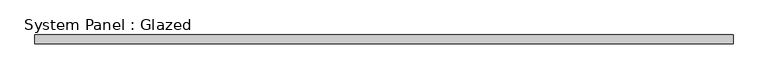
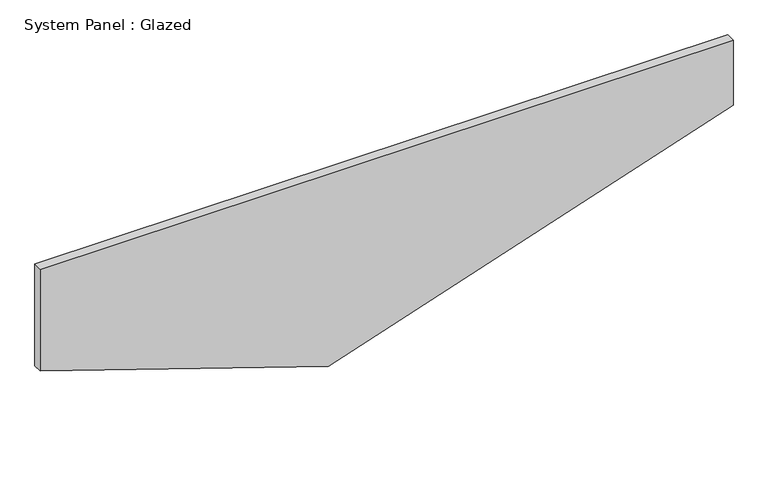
"""IFC4 building model written with IfcOpenShell, lengths in millimetres: plate geometry, System Panel : Glazed."""

from ifc_helpers import new_model, si_unit, frame, origin, place, context, project, spatial, polyline, outline, extrude, source, transform, mapped, element, save


def system_panel_glazed_6a6e56af(model_context):
    return source(origin(), model_context, "Body", "SweptSolid", [
        extrude(outline(polyline([(273.05, -984.25), (0.0, -165.1), (383.1166667, 984.25), (579.0943793, 984.25), (579.0943793, -984.25), (273.05, -984.25)])), frame((0.0, -44.45, 0.0), z_axis=(0.0, 1.0, 0.0), x_axis=(0.0, 0.0, 1.0)), (0.0, 0.0, 1.0), 25.4),
    ])


if __name__ == "__main__":
    model = new_model("IFC4")
    model_context = context("Model", 3, world=origin())
    ifc_project = project(units=[si_unit("LENGTHUNIT", "METRE", prefix="MILLI")], contexts=[model_context])
    site = spatial("IfcSite", under=ifc_project)
    building = spatial("IfcBuilding", under=site)
    placement = place(None, origin())
    system_panel_glazed_shape = system_panel_glazed_6a6e56af(model_context)
    element("IfcPlate", 1, ObjectType="System Panel : Glazed", at=placement, inside=building, context=model_context, shape_type="MappedRepresentation", body=[
        mapped(system_panel_glazed_shape, transform((0.0, 0.0, 0.0), x_axis=(1.0, 0.0, 0.0), y_axis=(0.0, 1.0, 0.0), z_axis=(0.0, 0.0, 1.0))),
    ])
    save(model, "model.ifc")
